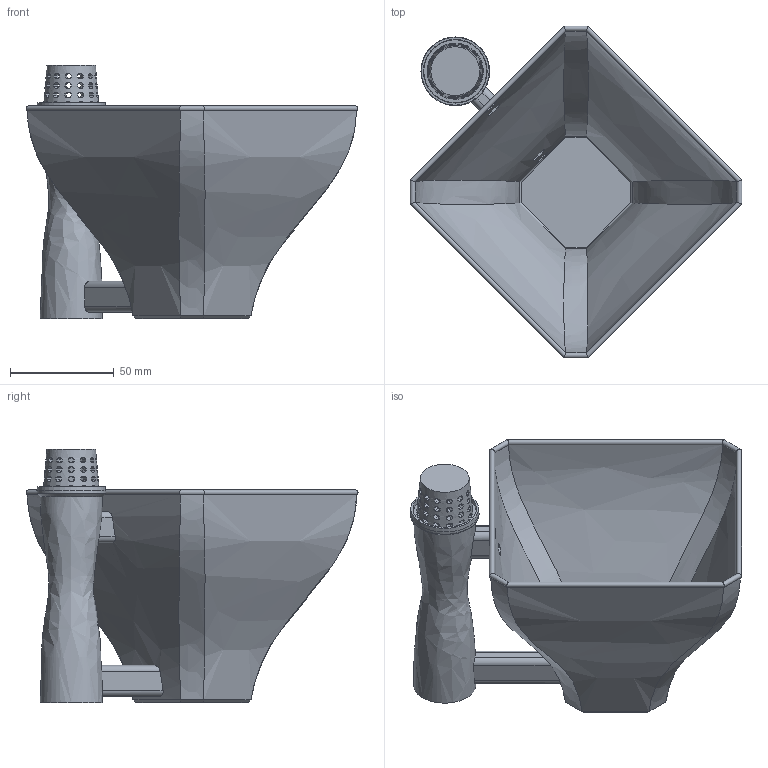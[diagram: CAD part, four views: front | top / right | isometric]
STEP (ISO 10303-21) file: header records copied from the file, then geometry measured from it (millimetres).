
FILE_DESCRIPTION(/* description */ (''),/* implementation_level */ '2;1');
FILE_NAME(/* name */ 'D:/Documents/3D/Garden/vase ladder/Cutomizers/Orchid.step',/* time_stamp */ '2021-04-07T19:00:53-04:00',/* author */ (''),/* organization */ (''),/* preprocessor_version */ 'ST-DEVELOPER v18.1',/* originating_system */ 'Autodesk Translation Framework v10.6.0.1341',/* authorisation */ '');
FILE_SCHEMA (('AUTOMOTIVE_DESIGN { 1 0 10303 214 3 1 1 }'));
Length unit declared in the file: millimetre
Products named in the file (1): TowerC
Bounding box: 159.83 x 159.83 x 122 mm (x, y, z)
Volume: 70963.6 mm3; surface area: 101971.5 mm2
Topology: 2 solids, 2 shells, 519 faces, 1590 edges, 1063 vertices
Faces by surface type: plane 441, bspline 40, cylinder 33, cone 5
Full cylindrical faces by diameter (mm): 33 x1
Entity records: 22645 total; most frequent: CARTESIAN_POINT 8068, ORIENTED_EDGE 3180, DIRECTION 2993, EDGE_CURVE 1590, AXIS2_PLACEMENT_3D 1150, VERTEX_POINT 1063, LINE 693, VECTOR 693
